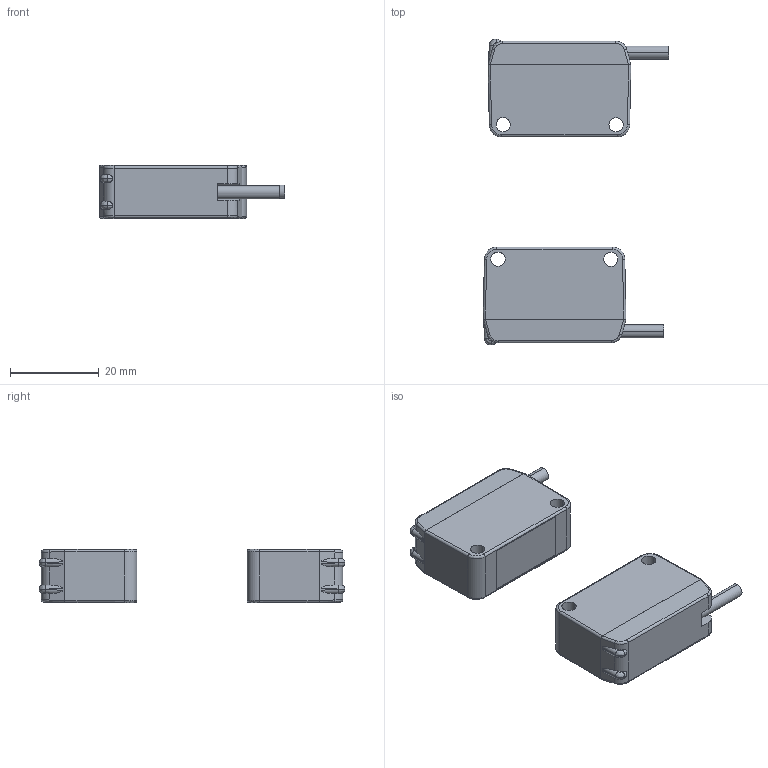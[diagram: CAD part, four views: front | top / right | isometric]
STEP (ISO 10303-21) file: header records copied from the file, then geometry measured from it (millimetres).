
FILE_DESCRIPTION (( 'STEP AP214' ), '1' );
FILE_NAME ('BOL2.STEP', '2025-05-27T00:52:24', ( '' ), ( '' ), 'SwSTEP 2.0', 'SolidWorks 2022', '' );
FILE_SCHEMA (( 'AUTOMOTIVE_DESIGN' ));
Length unit declared in the file: millimetre
Products named in the file (12): EZ-LT61^BOL2; MANIFOLD_SOLID_BREP_121.stp^D61-D_EZ-LT61_BOL2; D61-B01^EZ-LT61_BOL2; MANIFOLD_SOLID_BREP_119.stp^D61-A_EZ-LT61_BOL2; BOL2; MANIFOLD_SOLID_BREP_119.stp^EZ-LT61_BOL2; D61-A^EZ-LT61_BOL2; D61-B02^EZ-LT61_BOL2; MANIFOLD_SOLID_BREP_130.stp^D61-C_EZ-LT61_BOL2; MANIFOLD_SOLID_BREP_120.stp^D61-B02_EZ-LT61_BOL2; D61-D^EZ-LT61_BOL2; D61-C^EZ-LT61_BOL2
Assembly tree (12 placements, depth 4):
  BOL2
    EZ-LT61^BOL2
      D61-A^EZ-LT61_BOL2
        MANIFOLD_SOLID_BREP_119.stp^D61-A_EZ-LT61_BOL2
      D61-C^EZ-LT61_BOL2  x2
        MANIFOLD_SOLID_BREP_130.stp^D61-C_EZ-LT61_BOL2
      D61-D^EZ-LT61_BOL2
        MANIFOLD_SOLID_BREP_121.stp^D61-D_EZ-LT61_BOL2
      D61-B02^EZ-LT61_BOL2
        MANIFOLD_SOLID_BREP_120.stp^D61-B02_EZ-LT61_BOL2
      D61-B01^EZ-LT61_BOL2
      MANIFOLD_SOLID_BREP_119.stp^EZ-LT61_BOL2
Bounding box: 41.78 x 68.9 x 11.99 mm (x, y, z)
Volume: 5987.5 mm3; surface area: 11688 mm2
Topology: 9 solids, 9 shells, 876 faces, 2504 edges, 1646 vertices
Faces by surface type: plane 668, cylinder 158, bspline 42, cone 8
Entity records: 32907 total; most frequent: CARTESIAN_POINT 11709, ORIENTED_EDGE 4816, DIRECTION 3594, EDGE_CURVE 2408, LINE 1754, VECTOR 1754, VERTEX_POINT 1582, AXIS2_PLACEMENT_3D 920
